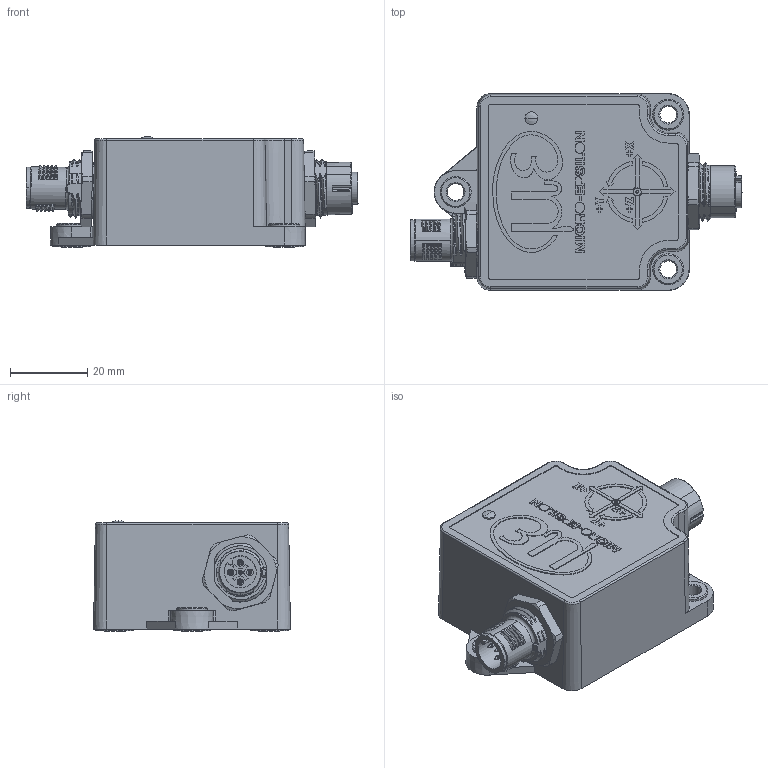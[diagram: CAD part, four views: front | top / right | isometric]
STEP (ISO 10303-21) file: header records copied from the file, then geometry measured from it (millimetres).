
FILE_DESCRIPTION (( 'STEP AP214' ), '1' );
FILE_NAME ('AccIS12 V3.3_LED_2xM12_zweiseitig_defeature.STEP', '2023-01-26T13:22:33', ( '' ), ( '' ), 'SwSTEP 2.0', 'SolidWorks 2019', '' );
FILE_SCHEMA (( 'AUTOMOTIVE_DESIGN' ));
Length unit declared in the file: millimetre
Products named in the file (1): AccIS12 V3.3_LED_2xM12_zweiseitig_defeature
Bounding box: 85.91 x 50.96 x 28.66 mm (x, y, z)
Volume: 74275 mm3; surface area: 15782.6 mm2
Topology: 1 solids, 1 shells, 1124 faces, 3005 edges, 1956 vertices
Faces by surface type: plane 528, bspline 281, cylinder 185, cone 92, torus 34, sphere 4
Full cylindrical faces by diameter (mm): 0.7 x1, 1.1 x5, 2 x1, 4.3 x3, 8 x3, 9.8 x2, 11.7 x1
Entity records: 54249 total; most frequent: CARTESIAN_POINT 22104, ORIENTED_EDGE 5890, DIRECTION 4206, EDGE_CURVE 2945, VERTEX_POINT 1938, LINE 1590, VECTOR 1590, AXIS2_PLACEMENT_3D 1308
